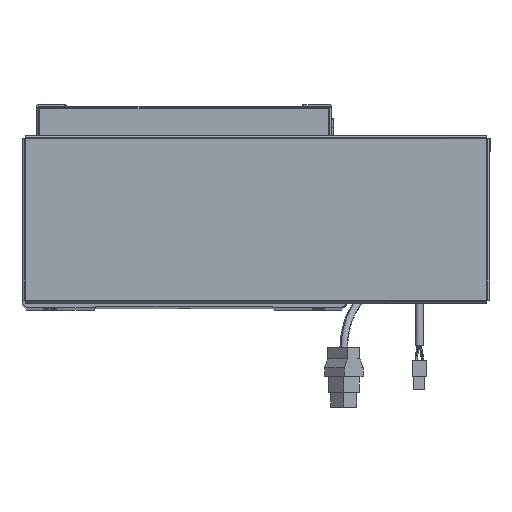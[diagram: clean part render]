
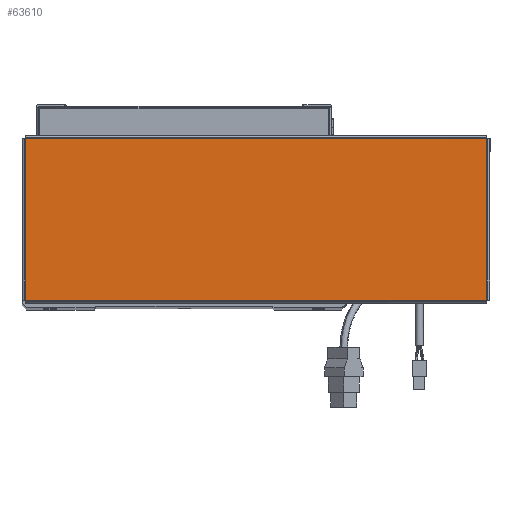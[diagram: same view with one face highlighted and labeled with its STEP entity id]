
A CAD part, top view. The second image highlights one B-rep face of the part: STEP entity #63610.
In plain terms, the highlighted planar face has unit normal (0, 0, 1).
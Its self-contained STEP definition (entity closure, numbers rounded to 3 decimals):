
#684 = CARTESIAN_POINT ( 'NONE',  ( 156.513, 54.763, 0. ) ) ;
#719 = EDGE_CURVE ( 'NONE', #53292, #51367, #52697, .T. ) ;
#1880 = PLANE ( 'NONE',  #23526 ) ;
#3384 = VECTOR ( 'NONE', #14657, 1000. ) ;
#4581 = CARTESIAN_POINT ( 'NONE',  ( 156.543, 54.763, 0. ) ) ;
#9802 = CARTESIAN_POINT ( 'NONE',  ( -156.543, -54.763, 0. ) ) ;
#10860 = VECTOR ( 'NONE', #39004, 1000. ) ;
#11736 = CARTESIAN_POINT ( 'NONE',  ( 156.513, -54.793, 0. ) ) ;
#14657 = DIRECTION ( 'NONE',  ( 1., 0., 0. ) ) ;
#14816 = VECTOR ( 'NONE', #39754, 1000. ) ;
#16160 = VERTEX_POINT ( 'NONE', #17588 ) ;
#16368 = FACE_OUTER_BOUND ( 'NONE', #39761, .T. ) ;
#17588 = CARTESIAN_POINT ( 'NONE',  ( 156.513, -54.763, 0. ) ) ;
#21346 = CARTESIAN_POINT ( 'NONE',  ( -156.513, -54.763, 0. ) ) ;
#23526 = AXIS2_PLACEMENT_3D ( 'NONE', #47963, #37403, #32559 ) ;
#23919 = VERTEX_POINT ( 'NONE', #684 ) ;
#26906 = CARTESIAN_POINT ( 'NONE',  ( -156.513, 54.763, 0. ) ) ;
#32559 = DIRECTION ( 'NONE',  ( 1., 0., 0. ) ) ;
#32685 = ORIENTED_EDGE ( 'NONE', *, *, #49970, .T. ) ;
#33627 = LINE ( 'NONE', #11736, #57344 ) ;
#36098 = LINE ( 'NONE', #4581, #10860 ) ;
#37403 = DIRECTION ( 'NONE',  ( 0., 0., 1. ) ) ;
#39004 = DIRECTION ( 'NONE',  ( -1., 0., 0. ) ) ;
#39754 = DIRECTION ( 'NONE',  ( 0., -1., 0. ) ) ;
#39761 = EDGE_LOOP ( 'NONE', ( #32685, #57490, #48268, #58574 ) ) ;
#40451 = LINE ( 'NONE', #9802, #3384 ) ;
#47963 = CARTESIAN_POINT ( 'NONE',  ( 0., 0., 0. ) ) ;
#48268 = ORIENTED_EDGE ( 'NONE', *, *, #63270, .T. ) ;
#49970 = EDGE_CURVE ( 'NONE', #51367, #16160, #40451, .T. ) ;
#51367 = VERTEX_POINT ( 'NONE', #21346 ) ;
#52697 = LINE ( 'NONE', #58754, #14816 ) ;
#53292 = VERTEX_POINT ( 'NONE', #26906 ) ;
#55499 = EDGE_CURVE ( 'NONE', #16160, #23919, #33627, .T. ) ;
#57344 = VECTOR ( 'NONE', #62734, 1000. ) ;
#57490 = ORIENTED_EDGE ( 'NONE', *, *, #55499, .T. ) ;
#58574 = ORIENTED_EDGE ( 'NONE', *, *, #719, .T. ) ;
#58754 = CARTESIAN_POINT ( 'NONE',  ( -156.513, 54.793, 0. ) ) ;
#62734 = DIRECTION ( 'NONE',  ( 0., 1., 0. ) ) ;
#63270 = EDGE_CURVE ( 'NONE', #23919, #53292, #36098, .T. ) ;
#63610 = ADVANCED_FACE ( 'NONE', ( #16368 ), #1880, .T. ) ;
